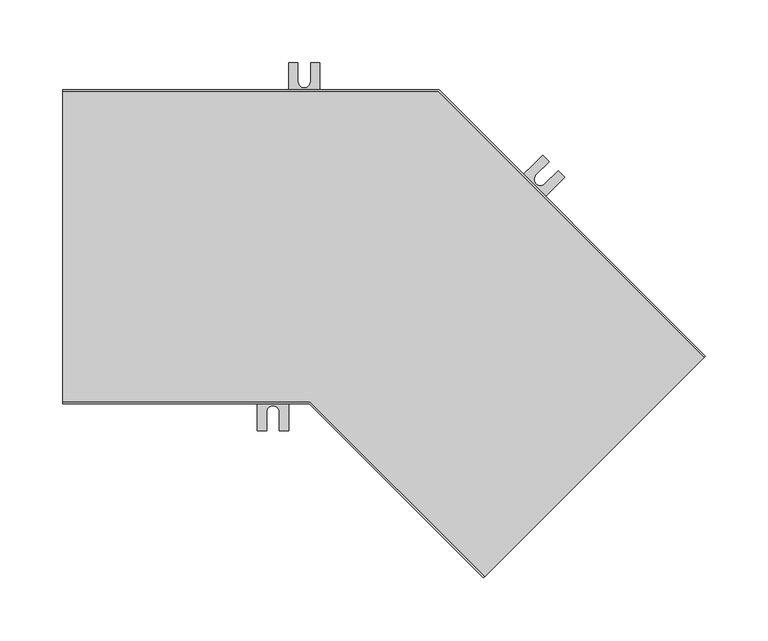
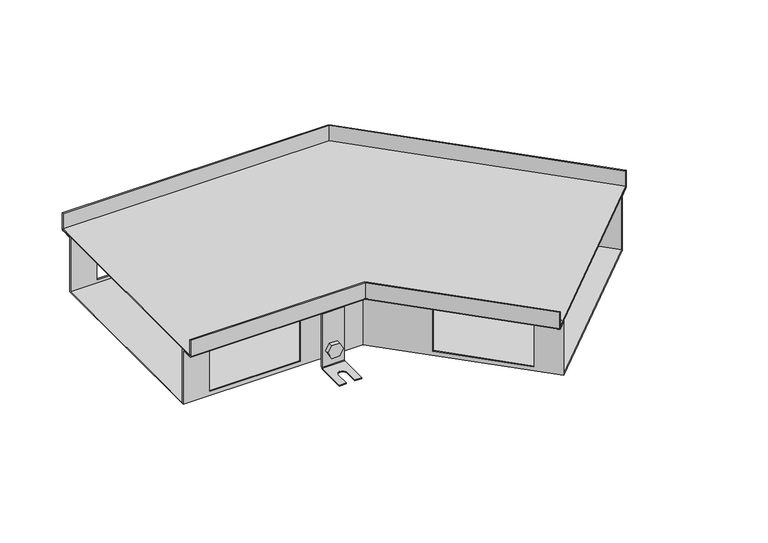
"""IFC4 building model written with IfcOpenShell, lengths in millimetres: proxy geometry, TECHNO_Угловой элемент_KVU : 250_085_135°."""

from ifc_helpers import new_model, si_unit, point, frame, frame_2d, origin, place, context, project, spatial, polyline, circle_curve, ellipse_curve, trimmed, segment, composite_curve, outline, extrude, source, transform, mapped, element, save
from ifc_brep_helpers import plane_surface, cylinder_surface, revolved_surface, advanced_brep


def mechanical_equipment_96d6deb1(model_context):
    return source(origin(), model_context, "Body", "SolidModel", [
        extrude(outline(composite_curve([segment(trimmed(circle_curve(frame_2d((0.0, -7.5000001)), 7.5), [point((0.0, -15.0))], [point((0.0, 0.0))], False, "CARTESIAN"), True, "CONTINUOUS"), segment(trimmed(circle_curve(frame_2d((0.0, -7.5000001)), 7.5), [point((0.0, 0.0))], [point((0.0, -15.0))], False, "CARTESIAN"), True, "CONTINUOUS")], self_intersect=False)), frame((347.6589971, -25.3309017, -75.5), z_axis=(0.7071067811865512, 0.7071067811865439, 0.0), x_axis=(0.0, 0.0, 1.0)), (0.0, 0.0, 1.0), 1.5),
        extrude(outline(polyline([(0.0, 0.0), (8.6602541, 0.0), (12.9903811, -7.5), (8.660254, -15.0), (0.0, -15.0), (-4.330127, -7.5), (0.0, 0.0)])), frame((331.7771991, -18.3586492, -75.5), z_axis=(0.7071067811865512, 0.7071067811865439, 0.0), x_axis=(0.3535533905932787, -0.3535533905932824, -0.8660254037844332)), (0.0, 0.0, 1.0), 5.1),
        advanced_brep(
        [(350.3460028, -29.7149637, -30.5), (350.3460028, -29.7149637, -93.5), (349.7803174, -30.2806491, -94.3), (326.4457936, -53.6151729, -94.3), (326.4457936, -53.6151729, -95.5), (349.7803174, -30.2806491, -95.5), (351.194531, -28.8664356, -93.5), (351.194531, -28.8664356, -30.5), (332.6683333, -12.0372942, -30.5), (333.5168614, -11.1887661, -30.5), (333.5168614, -11.1887661, -93.5), (332.1026479, -12.6029796, -95.5), (308.7681241, -35.9375034, -95.5), (308.7681241, -35.9375034, -94.3), (332.1026479, -12.6029796, -94.3), (332.6683333, -12.0372942, -93.5), (314.0714249, -41.2408043, -94.3), (324.6780267, -30.6342025, -94.3), (331.7490945, -37.7052704, -94.3), (321.1424928, -48.3118721, -94.3), (321.1424928, -48.3118721, -95.5), (314.0714249, -41.2408043, -95.5), (331.7490945, -37.7052704, -95.5), (324.6780267, -30.6342025, -95.5)],
        [
            (0, 1),
            (1, 2, circle_curve(frame((349.7803174, -30.2806491, -93.5), z_axis=(-0.7071067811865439, 0.7071067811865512, 0.0), x_axis=(-0.7071067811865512, -0.7071067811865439, 0.0)), 0.8)),
            (2, 3),
            (3, 4),
            (4, 5),
            (5, 6, circle_curve(frame((349.7803174, -30.2806491, -93.5), z_axis=(0.7071067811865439, -0.7071067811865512, 0.0), x_axis=(-0.7071067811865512, -0.7071067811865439, 0.0)), 2.0)),
            (6, 7),
            (7, 0),
            (8, 9),
            (9, 10),
            (10, 11, circle_curve(frame((332.1026479, -12.6029796, -93.5), z_axis=(-0.7071067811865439, 0.7071067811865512, 0.0), x_axis=(-0.7071067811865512, -0.7071067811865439, 0.0)), 2.0)),
            (11, 12),
            (12, 13),
            (13, 14),
            (14, 15, circle_curve(frame((332.1026479, -12.6029796, -93.5), z_axis=(0.7071067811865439, -0.7071067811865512, 0.0), x_axis=(-0.7071067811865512, -0.7071067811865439, 0.0)), 0.8)),
            (15, 8),
            (0, 8),
            (15, 1),
            (14, 2),
            (13, 16),
            (16, 17),
            (17, 18, circle_curve(frame((328.2135606, -34.1697364, -94.3), z_axis=(0.0, 0.0, -1.0), x_axis=(0.7071067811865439, -0.7071067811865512, 0.0)), 5.0)),
            (18, 19),
            (19, 3),
            (19, 20),
            (20, 4),
            (12, 21),
            (21, 16),
            (20, 22),
            (22, 23, circle_curve(frame((328.2135606, -34.1697364, -95.5), z_axis=(0.0, 0.0, 1.0), x_axis=(0.7071067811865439, -0.7071067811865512, 0.0)), 5.0)),
            (23, 21),
            (11, 5),
            (10, 6),
            (9, 7),
            (23, 17),
            (18, 22),
        ],
        [
            plane_surface(frame((350.3460028, -29.7149637, -30.5), z_axis=(0.7071067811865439, -0.7071067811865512, 0.0), x_axis=(0.0, 0.0, -1.0))),
            plane_surface(frame((332.6683333, -12.0372942, -30.5), z_axis=(-0.7071067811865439, 0.7071067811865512, 0.0), x_axis=(0.0, 0.0, 1.0))),
            plane_surface(frame((350.3460028, -29.7149637, -30.5), z_axis=(-0.7071067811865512, -0.7071067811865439, 0.0), x_axis=(-0.7071067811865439, 0.7071067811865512, 0.0))),
            revolved_surface(polyline([(331.53696247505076, -13.168665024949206, -93.5), (349.2146319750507, -30.84633452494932, -93.5)]), (332.1026479, -12.6029796, -93.5), (-0.7071067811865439, 0.7071067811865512, 0.0)),
            plane_surface(frame((349.7803174, -30.2806491, -94.3), z_axis=(0.0, 0.0, 1.0), x_axis=(-0.7071067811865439, 0.7071067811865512, 0.0))),
            plane_surface(frame((326.4457936, -53.6151729, -94.3), z_axis=(-0.7071067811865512, -0.7071067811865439, 0.0), x_axis=(-0.7071067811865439, 0.7071067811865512, 0.0))),
            plane_surface(frame((326.4457936, -53.6151729, -95.5), z_axis=(0.0, 0.0, -1.0), x_axis=(-0.7071067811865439, 0.7071067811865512, 0.0))),
            cylinder_surface(frame((332.1026479, -12.6029796, -93.5), z_axis=(0.7071067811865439, -0.7071067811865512, 0.0), x_axis=(-0.7071067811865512, -0.7071067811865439, 0.0)), 2.0),
            plane_surface(frame((351.194531, -28.8664356, -93.5), z_axis=(0.7071067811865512, 0.7071067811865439, 0.0), x_axis=(-0.7071067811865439, 0.7071067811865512, 0.0))),
            plane_surface(frame((351.194531, -28.8664356, -30.5), z_axis=(0.0, 0.0, 1.0), x_axis=(-0.7071067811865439, 0.7071067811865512, 0.0))),
            plane_surface(frame((324.6780267, -30.6342025, -94.3), z_axis=(0.7071067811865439, -0.7071067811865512, 0.0), x_axis=(0.0, 0.0, -1.0))),
            plane_surface(frame((321.1424928, -48.3118721, -94.3), z_axis=(-0.707106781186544, 0.7071067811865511, 0.0), x_axis=(0.0, 0.0, -1.0))),
            revolved_surface(polyline([(331.7490945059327, -37.70527030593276, -94.3), (331.7490945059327, -37.70527030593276, -95.5)]), (328.2135606, -34.1697364, -95.5), (0.0, 0.0, 1.0)),
        ],
        [
            (0, [[1, 2, 3, 4, 5, 6, 7, 8]]),
            (1, [[9, 10, 11, 12, 13, 14, 15, 16]]),
            (2, [[-1, 17, -16, 18]]),
            (3, [[-2, -18, -15, 19]]),
            (4, [[-3, -19, -14, 20, 21, 22, 23, 24]]),
            (5, [[-4, -24, 25, 26]]),
            (5, [[-13, 27, 28, -20]]),
            (6, [[-5, -26, 29, 30, 31, -27, -12, 32]]),
            (7, [[-6, -32, -11, 33]]),
            (8, [[-7, -33, -10, 34]]),
            (9, [[-8, -34, -9, -17]]),
            (10, [[35, -21, -28, -31]]),
            (11, [[36, -29, -25, -23]]),
            (12, [[-35, -30, -36, -22]]),
        ],
    ),
        extrude(outline(composite_curve([segment(trimmed(circle_curve(frame_2d((0.0, -7.4999999)), 7.5), [point((0.0, -15.0))], [point((0.0, 0.0))], False, "CARTESIAN"), True, "CONTINUOUS"), segment(trimmed(circle_curve(frame_2d((0.0, -7.4999999)), 7.5), [point((0.0, 0.0))], [point((0.0, -15.0))], False, "CARTESIAN"), True, "CONTINUOUS")], self_intersect=False)), frame((360.2454978, 43.8241415, -75.5), z_axis=(0.7071067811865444, 0.7071067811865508, 0.0), x_axis=(0.0, 0.0, -1.0)), (0.0, 0.0, 1.0), 1.5),
        extrude(outline(polyline([(0.0, 0.0), (4.330127, -7.5), (0.0, -15.0), (-8.660254, -15.0), (-12.9903811, -7.5), (-8.6602541, 0.0), (0.0, 0.0)])), frame((373.5817113, 34.3063046, -75.5), z_axis=(0.7071067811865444, 0.7071067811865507, 0.0), x_axis=(0.35355339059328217, -0.35355339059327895, 0.8660254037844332)), (0.0, 0.0, 1.0), 5.1),
        advanced_brep(
        [(358.6191522, 49.2688637, -30.5), (358.6191522, 49.2688637, -93.5), (359.1848376, 49.8345492, -94.3), (382.5193614, 73.1690729, -94.3), (382.5193614, 73.1690729, -95.5), (359.1848376, 49.8345492, -95.5), (357.770624, 48.4203356, -93.5), (357.770624, 48.4203356, -30.5), (376.2968217, 31.5911942, -30.5), (375.4482936, 30.7426661, -30.5), (375.4482936, 30.7426661, -93.5), (376.8625071, 32.1568796, -95.5), (400.1970309, 55.4914034, -95.5), (400.1970309, 55.4914034, -94.3), (376.8625071, 32.1568796, -94.3), (376.2968217, 31.5911942, -93.5), (394.89373, 60.7947043, -94.3), (384.2871283, 50.1881026, -94.3), (377.2160605, 57.2591704, -94.3), (387.8226622, 67.8657721, -94.3), (387.8226622, 67.8657721, -95.5), (394.89373, 60.7947043, -95.5), (377.2160605, 57.2591704, -95.5), (384.2871283, 50.1881026, -95.5)],
        [
            (0, 1),
            (1, 2, circle_curve(frame((359.1848376, 49.8345492, -93.5), z_axis=(0.7071067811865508, -0.7071067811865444, 0.0), x_axis=(0.7071067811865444, 0.7071067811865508, 0.0)), 0.8)),
            (2, 3),
            (3, 4),
            (4, 5),
            (5, 6, circle_curve(frame((359.1848376, 49.8345492, -93.5), z_axis=(-0.7071067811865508, 0.7071067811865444, 0.0), x_axis=(0.7071067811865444, 0.7071067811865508, 0.0)), 2.0)),
            (6, 7),
            (7, 0),
            (8, 9),
            (9, 10),
            (10, 11, circle_curve(frame((376.8625071, 32.1568796, -93.5), z_axis=(0.7071067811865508, -0.7071067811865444, 0.0), x_axis=(0.7071067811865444, 0.7071067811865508, 0.0)), 2.0)),
            (11, 12),
            (12, 13),
            (13, 14),
            (14, 15, circle_curve(frame((376.8625071, 32.1568796, -93.5), z_axis=(-0.7071067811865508, 0.7071067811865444, 0.0), x_axis=(0.7071067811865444, 0.7071067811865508, 0.0)), 0.8)),
            (15, 8),
            (0, 8),
            (15, 1),
            (14, 2),
            (13, 16),
            (16, 17),
            (17, 18, circle_curve(frame((380.7515944, 53.7236365, -94.3), z_axis=(0.0, 0.0, -1.0), x_axis=(-0.7071067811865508, 0.7071067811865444, 0.0)), 5.0)),
            (18, 19),
            (19, 3),
            (19, 20),
            (20, 4),
            (12, 21),
            (21, 16),
            (20, 22),
            (22, 23, circle_curve(frame((380.7515944, 53.7236365, -95.5), z_axis=(0.0, 0.0, 1.0), x_axis=(-0.7071067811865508, 0.7071067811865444, 0.0)), 5.0)),
            (23, 21),
            (11, 5),
            (10, 6),
            (9, 7),
            (23, 17),
            (18, 22),
        ],
        [
            plane_surface(frame((358.6191522, 49.2688637, -30.5), z_axis=(-0.7071067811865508, 0.7071067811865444, 0.0), x_axis=(0.0, 0.0, -1.0))),
            plane_surface(frame((376.2968217, 31.5911942, -30.5), z_axis=(0.7071067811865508, -0.7071067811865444, 0.0), x_axis=(0.0, 0.0, 1.0))),
            plane_surface(frame((358.6191522, 49.2688637, -30.5), z_axis=(0.7071067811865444, 0.7071067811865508, 0.0), x_axis=(0.7071067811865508, -0.7071067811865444, 0.0))),
            revolved_surface(polyline([(377.4281925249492, 32.72256502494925, -93.5), (359.75052297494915, 50.40023457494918, -93.5)]), (376.8625071, 32.1568796, -93.5), (0.7071067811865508, -0.7071067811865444, 0.0)),
            plane_surface(frame((359.1848376, 49.8345492, -94.3), z_axis=(0.0, 0.0, 1.0000000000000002), x_axis=(0.7071067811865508, -0.7071067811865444, 0.0))),
            plane_surface(frame((382.5193614, 73.1690729, -94.3), z_axis=(0.7071067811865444, 0.7071067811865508, 0.0), x_axis=(0.7071067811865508, -0.7071067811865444, 0.0))),
            plane_surface(frame((382.5193614, 73.1690729, -95.5), z_axis=(0.0, 0.0, -1.0000000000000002), x_axis=(0.7071067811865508, -0.7071067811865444, 0.0))),
            cylinder_surface(frame((376.8625071, 32.1568796, -93.5), z_axis=(-0.7071067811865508, 0.7071067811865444, 0.0), x_axis=(0.7071067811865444, 0.7071067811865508, 0.0)), 2.0),
            plane_surface(frame((357.770624, 48.4203356, -93.5), z_axis=(-0.7071067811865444, -0.7071067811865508, 0.0), x_axis=(0.7071067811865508, -0.7071067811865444, 0.0))),
            plane_surface(frame((357.770624, 48.4203356, -30.5), z_axis=(0.0, 0.0, 1.0000000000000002), x_axis=(0.7071067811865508, -0.7071067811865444, 0.0))),
            plane_surface(frame((384.2871283, 50.1881026, -94.3), z_axis=(-0.7071067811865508, 0.7071067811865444, 0.0), x_axis=(0.0, 0.0, -1.0))),
            plane_surface(frame((387.8226622, 67.8657721, -94.3), z_axis=(0.7071067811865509, -0.7071067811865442, 0.0), x_axis=(0.0, 0.0, -1.0))),
            revolved_surface(polyline([(377.2160604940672, 57.25917040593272, -94.3), (377.2160604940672, 57.25917040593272, -95.5)]), (380.7515944, 53.7236365, -95.5), (0.0, 0.0, 1.0)),
        ],
        [
            (0, [[1, 2, 3, 4, 5, 6, 7, 8]]),
            (1, [[9, 10, 11, 12, 13, 14, 15, 16]]),
            (2, [[-1, 17, -16, 18]]),
            (3, [[-2, -18, -15, 19]]),
            (4, [[-3, -19, -14, 20, 21, 22, 23, 24]]),
            (5, [[-4, -24, 25, 26]]),
            (5, [[-13, 27, 28, -20]]),
            (6, [[-5, -26, 29, 30, 31, -27, -12, 32]]),
            (7, [[-6, -32, -11, 33]]),
            (8, [[-7, -33, -10, 34]]),
            (9, [[-8, -34, -9, -17]]),
            (10, [[35, -21, -28, -31]]),
            (11, [[36, -29, -25, -23]]),
            (12, [[-35, -30, -36, -22]]),
        ],
    ),
        extrude(outline(composite_curve([segment(trimmed(circle_curve(frame_2d((-75.5, 192.5)), 7.5), [point((-75.5, 185.0))], [point((-75.5, 200.0))], False, "CARTESIAN"), True, "CONTINUOUS"), segment(trimmed(circle_curve(frame_2d((-75.5, 192.5)), 7.5), [point((-75.5, 200.0))], [point((-75.5, 185.0))], False, "CARTESIAN"), True, "CONTINUOUS")], self_intersect=False)), frame((0.0, 110.2, 0.0), z_axis=(0.0, 1.0, 0.0), x_axis=(0.0, 0.0, 1.0)), (0.0, 0.0, 1.0), 1.5),
        extrude(outline(polyline([(-75.5, 183.839746), (-83.0, 188.169873), (-83.0, 196.830127), (-75.5, 201.160254), (-68.0, 196.830127), (-68.0, 188.169873), (-75.5, 183.839746)])), frame((0.0, 112.9, 0.0), z_axis=(0.0, 1.0, 0.0), x_axis=(0.0, 0.0, 1.0)), (0.0, 0.0, 1.0), 5.1),
        advanced_brep(
        [(205.0, 112.9, -30.5), (205.0, 111.7, -30.5), (205.0, 111.7, -93.5), (205.0, 113.7, -95.5), (205.0, 146.7, -95.5), (205.0, 146.7, -94.3), (205.0, 113.7, -94.3), (205.0, 112.9, -93.5), (180.0, 112.9, -30.5), (180.0, 112.9, -93.5), (180.0, 113.7, -94.3), (180.0, 146.7, -94.3), (180.0, 146.7, -95.5), (180.0, 113.7, -95.5), (180.0, 111.7, -93.5), (180.0, 111.7, -30.5), (197.5, 146.7, -94.3), (197.5, 131.7, -94.3), (187.5, 131.7, -94.3), (187.5, 146.7, -94.3), (187.5, 146.7, -95.5), (197.5, 146.7, -95.5), (187.5, 131.7, -95.5), (197.5, 131.7, -95.5)],
        [
            (0, 1),
            (1, 2),
            (2, 3, circle_curve(frame((205.0, 113.7, -93.5), z_axis=(1.0, 0.0, 0.0), x_axis=(0.0, 1.0, 0.0)), 2.0)),
            (3, 4),
            (4, 5),
            (5, 6),
            (6, 7, circle_curve(frame((205.0, 113.7, -93.5), z_axis=(-1.0, 0.0, 0.0), x_axis=(0.0, 1.0, 0.0)), 0.8)),
            (7, 0),
            (8, 9),
            (9, 10, circle_curve(frame((180.0, 113.7, -93.5), z_axis=(1.0, 0.0, 0.0), x_axis=(0.0, 1.0, 0.0)), 0.8)),
            (10, 11),
            (11, 12),
            (12, 13),
            (13, 14, circle_curve(frame((180.0, 113.7, -93.5), z_axis=(-1.0, 0.0, 0.0), x_axis=(0.0, 1.0, 0.0)), 2.0)),
            (14, 15),
            (15, 8),
            (7, 9),
            (8, 0),
            (6, 10),
            (5, 16),
            (16, 17),
            (17, 18, circle_curve(frame((192.5, 131.7, -94.3), z_axis=(0.0, 0.0, -1.0), x_axis=(1.0, 0.0, 0.0)), 5.0)),
            (18, 19),
            (19, 11),
            (19, 20),
            (20, 12),
            (4, 21),
            (21, 16),
            (3, 13),
            (20, 22),
            (22, 23, circle_curve(frame((192.5, 131.7, -95.5), z_axis=(0.0, 0.0, 1.0), x_axis=(1.0, 0.0, 0.0)), 5.0)),
            (23, 21),
            (2, 14),
            (1, 15),
            (18, 22),
            (23, 17),
        ],
        [
            plane_surface(frame((205.0, 112.9, -30.5), z_axis=(1.0, 0.0, 0.0), x_axis=(0.0, 0.0, -1.0))),
            plane_surface(frame((180.0, 112.9, -30.5), z_axis=(-1.0, 0.0, 0.0), x_axis=(0.0, 0.0, 1.0))),
            plane_surface(frame((205.0, 112.9, -30.5), z_axis=(0.0, 1.0, 0.0), x_axis=(-1.0, 0.0, 0.0))),
            revolved_surface(polyline([(180.0, 114.5, -93.5), (205.0, 114.5, -93.5)]), (180.0, 113.7, -93.5), (-1.0, 0.0, 0.0)),
            plane_surface(frame((205.0, 113.7, -94.3), z_axis=(0.0, 0.0, 1.0), x_axis=(-1.0, 0.0, 0.0))),
            plane_surface(frame((205.0, 146.7, -94.3), z_axis=(0.0, 1.0, 0.0), x_axis=(-1.0, 0.0, 0.0))),
            plane_surface(frame((205.0, 146.7, -95.5), z_axis=(0.0, 0.0, -1.0), x_axis=(-1.0, 0.0, 0.0))),
            cylinder_surface(frame((180.0, 113.7, -93.5), z_axis=(1.0, 0.0, 0.0), x_axis=(0.0, 1.0, 0.0)), 2.0),
            plane_surface(frame((205.0, 111.7, -93.5), z_axis=(0.0, -1.0, 0.0), x_axis=(-1.0, 0.0, 0.0))),
            plane_surface(frame((205.0, 111.7, -30.5), z_axis=(0.0, 0.0, 1.0), x_axis=(-1.0, 0.0, 0.0))),
            plane_surface(frame((187.5, 131.7, -94.3), z_axis=(1.0, 0.0, 0.0), x_axis=(0.0, 0.0, -1.0))),
            plane_surface(frame((197.5, 146.7, -94.3), z_axis=(-1.0, 0.0, 0.0), x_axis=(0.0, 0.0, -1.0))),
            revolved_surface(polyline([(197.5, 131.7, -94.3), (197.5, 131.7, -95.5)]), (192.5, 131.7, -95.5), (0.0, 0.0, 1.0)),
        ],
        [
            (0, [[1, 2, 3, 4, 5, 6, 7, 8]]),
            (1, [[9, 10, 11, 12, 13, 14, 15, 16]]),
            (2, [[17, -9, 18, -8]]),
            (3, [[19, -10, -17, -7]]),
            (4, [[20, 21, 22, 23, 24, -11, -19, -6]]),
            (5, [[-24, 25, 26, -12]]),
            (5, [[27, 28, -20, -5]]),
            (6, [[29, -13, -26, 30, 31, 32, -27, -4]]),
            (7, [[33, -14, -29, -3]]),
            (8, [[34, -15, -33, -2]]),
            (9, [[-18, -16, -34, -1]]),
            (10, [[-30, -25, -23, 35]]),
            (11, [[-21, -28, -32, 36]]),
            (12, [[-22, -36, -31, -35]]),
        ],
    ),
        extrude(outline(composite_curve([segment(trimmed(circle_curve(frame_2d((-75.5, 167.5)), 7.5), [point((-75.5, 160.0))], [point((-75.5, 175.0))], False, "CARTESIAN"), True, "CONTINUOUS"), segment(trimmed(circle_curve(frame_2d((-75.5, 167.5)), 7.5), [point((-75.5, 175.0))], [point((-75.5, 160.0))], False, "CARTESIAN"), True, "CONTINUOUS")], self_intersect=False)), frame((0.0, -111.7, 0.0), z_axis=(0.0, 1.0, 0.0), x_axis=(0.0, 0.0, 1.0)), (0.0, 0.0, 1.0), 1.5),
        extrude(outline(polyline([(-75.5, 158.839746), (-83.0, 163.169873), (-83.0, 171.830127), (-75.5, 176.160254), (-68.0, 171.830127), (-68.0, 163.169873), (-75.5, 158.839746)])), frame((0.0, -118.0, 0.0), z_axis=(0.0, 1.0, 0.0), x_axis=(0.0, 0.0, 1.0)), (0.0, 0.0, 1.0), 5.1),
        advanced_brep(
        [(180.0, -112.9, -30.5), (180.0, -112.9, -93.5), (180.0, -113.7, -94.3), (180.0, -146.7, -94.3), (180.0, -146.7, -95.5), (180.0, -113.7, -95.5), (180.0, -111.7, -93.5), (180.0, -111.7, -30.5), (155.0, -112.9, -30.5), (155.0, -111.7, -30.5), (155.0, -111.7, -93.5), (155.0, -113.7, -95.5), (155.0, -146.7, -95.5), (155.0, -146.7, -94.3), (155.0, -113.7, -94.3), (155.0, -112.9, -93.5), (162.5, -146.7, -94.3), (162.5, -131.7, -94.3), (172.5, -131.7, -94.3), (172.5, -146.7, -94.3), (172.5, -146.7, -95.5), (162.5, -146.7, -95.5), (172.5, -131.7, -95.5), (162.5, -131.7, -95.5)],
        [
            (0, 1),
            (1, 2, circle_curve(frame((180.0, -113.7, -93.5), z_axis=(-1.0, 0.0, 0.0), x_axis=(0.0, -1.0, 0.0)), 0.8)),
            (2, 3),
            (3, 4),
            (4, 5),
            (5, 6, circle_curve(frame((180.0, -113.7, -93.5), z_axis=(1.0, 0.0, 0.0), x_axis=(0.0, -1.0, 0.0)), 2.0)),
            (6, 7),
            (7, 0),
            (8, 9),
            (9, 10),
            (10, 11, circle_curve(frame((155.0, -113.7, -93.5), z_axis=(-1.0, 0.0, 0.0), x_axis=(0.0, -1.0, 0.0)), 2.0)),
            (11, 12),
            (12, 13),
            (13, 14),
            (14, 15, circle_curve(frame((155.0, -113.7, -93.5), z_axis=(1.0, 0.0, 0.0), x_axis=(0.0, -1.0, 0.0)), 0.8)),
            (15, 8),
            (0, 8),
            (15, 1),
            (14, 2),
            (13, 16),
            (16, 17),
            (17, 18, circle_curve(frame((167.5, -131.7, -94.3), z_axis=(0.0, 0.0, -1.0), x_axis=(1.0, 0.0, 0.0)), 5.0)),
            (18, 19),
            (19, 3),
            (19, 20),
            (20, 4),
            (12, 21),
            (21, 16),
            (20, 22),
            (22, 23, circle_curve(frame((167.5, -131.7, -95.5), z_axis=(0.0, 0.0, 1.0), x_axis=(1.0, 0.0, 0.0)), 5.0)),
            (23, 21),
            (11, 5),
            (10, 6),
            (9, 7),
            (23, 17),
            (18, 22),
        ],
        [
            plane_surface(frame((180.0, -112.9, -30.5), z_axis=(1.0, 0.0, 0.0), x_axis=(0.0, 0.0, -1.0))),
            plane_surface(frame((155.0, -112.9, -30.5), z_axis=(-1.0, 0.0, 0.0), x_axis=(0.0, 0.0, 1.0))),
            plane_surface(frame((180.0, -112.9, -30.5), z_axis=(0.0, -1.0, 0.0), x_axis=(-1.0, 0.0, 0.0))),
            revolved_surface(polyline([(155.0, -114.5, -93.5), (180.0, -114.5, -93.5)]), (155.0, -113.7, -93.5), (-1.0, 0.0, 0.0)),
            plane_surface(frame((180.0, -113.7, -94.3), z_axis=(0.0, 0.0, 1.0), x_axis=(-1.0, 0.0, 0.0))),
            plane_surface(frame((180.0, -146.7, -94.3), z_axis=(0.0, -1.0, 0.0), x_axis=(-1.0, 0.0, 0.0))),
            plane_surface(frame((180.0, -146.7, -95.5), z_axis=(0.0, 0.0, -1.0), x_axis=(-1.0, 0.0, 0.0))),
            cylinder_surface(frame((155.0, -113.7, -93.5), z_axis=(1.0, 0.0, 0.0), x_axis=(0.0, -1.0, 0.0)), 2.0),
            plane_surface(frame((180.0, -111.7, -93.5), z_axis=(0.0, 1.0, 0.0), x_axis=(-1.0, 0.0, 0.0))),
            plane_surface(frame((180.0, -111.7, -30.5), z_axis=(0.0, 0.0, 1.0), x_axis=(-1.0, 0.0, 0.0))),
            plane_surface(frame((162.5, -131.7, -94.3), z_axis=(1.0, 0.0, 0.0), x_axis=(0.0, 0.0, -1.0))),
            plane_surface(frame((172.5, -146.7, -94.3), z_axis=(-1.0, 0.0, 0.0), x_axis=(0.0, 0.0, -1.0))),
            revolved_surface(polyline([(172.5, -131.7, -94.3), (172.5, -131.7, -95.5)]), (167.5, -131.7, -95.5), (0.0, 0.0, 1.0)),
        ],
        [
            (0, [[1, 2, 3, 4, 5, 6, 7, 8]]),
            (1, [[9, 10, 11, 12, 13, 14, 15, 16]]),
            (2, [[-1, 17, -16, 18]]),
            (3, [[-2, -18, -15, 19]]),
            (4, [[-3, -19, -14, 20, 21, 22, 23, 24]]),
            (5, [[-4, -24, 25, 26]]),
            (5, [[-13, 27, 28, -20]]),
            (6, [[-5, -26, 29, 30, 31, -27, -12, 32]]),
            (7, [[-6, -32, -11, 33]]),
            (8, [[-7, -33, -10, 34]]),
            (9, [[-8, -34, -9, -17]]),
            (10, [[35, -21, -28, -31]]),
            (11, [[36, -29, -25, -23]]),
            (12, [[-35, -30, -36, -22]]),
        ],
    ),
        extrude(outline(polyline([(511.2835062, -87.9805625), (336.2038672, -263.0602015), (196.9436657, -123.8), (0.0, -123.8), (0.0, 123.8), (299.5029437, 123.8), (511.2835062, -87.9805625)])), frame((0.0, 0.0, -19.3), z_axis=(0.0, 0.0, 1.0), x_axis=(1.0, 0.0, 0.0)), (0.0, 0.0, 1.0), 1.2),
        advanced_brep(
        [(335.3553391, -263.9087297, -19.3), (336.2038672, -263.0602015, -20.5), (345.8205194, -253.4435493, -20.5), (345.8205194, -253.4435493, -85.0), (501.666854, -97.5972147, -85.0), (501.666854, -97.5972147, -20.5), (511.2835062, -87.9805625, -20.5), (512.1320344, -87.1320344, -19.3), (512.1320344, -87.1320344, 0.0), (511.2835062, -87.9805625, 0.0), (511.2835062, -87.9805625, -19.3), (501.666854, -97.5972147, -19.3), (500.8183259, -98.4457429, -20.5), (500.8183259, -98.4457429, -83.8), (346.6690476, -252.5950212, -83.8), (346.6690476, -252.5950212, -20.5), (345.8205194, -253.4435493, -19.3), (336.2038672, -263.0602015, -19.3), (336.2038672, -263.0602015, 0.0), (335.3553391, -263.9087297, 0.0), (0.0, -125.0, -19.3), (0.0, -125.0, 0.0), (0.0, -123.8, 0.0), (0.0, -123.8, -19.3), (0.0, -110.2, -19.3), (0.0, -109.0, -20.5), (0.0, -109.0, -83.8), (0.0, 109.0, -83.8), (0.0, 109.0, -20.5), (0.0, 110.2, -19.3), (0.0, 123.8, -19.3), (0.0, 123.8, 0.0), (0.0, 125.0, 0.0), (0.0, 125.0, -19.3), (0.0, 123.8, -20.5), (0.0, 110.2, -20.5), (0.0, 110.2, -85.0), (0.0, -110.2, -85.0), (0.0, -110.2, -20.5), (0.0, -123.8, -20.5), (196.9436657, -123.8, -20.5), (196.4466094, -125.0, -19.3), (196.9436657, -123.8, 0.0), (196.9436657, -123.8, -19.3), (202.5769701, -110.2, -85.0), (202.5769701, -110.2, -20.5), (30.0, -110.2, -30.5), (132.0, -110.2, -30.5), (132.0, -110.2, -80.0), (30.0, -110.2, -80.0), (203.0740264, -109.0, -20.5), (203.0740264, -109.0, -83.8), (132.0, -109.0, -30.5), (30.0, -109.0, -30.5), (30.0, -109.0, -80.0), (132.0, -109.0, -80.0), (202.5769701, -110.2, -19.3), (252.4824243, -160.1054542, -30.5), (324.607316, -232.2303459, -30.5), (324.607316, -232.2303459, -80.0), (252.4824243, -160.1054542, -80.0), (293.8696393, 110.2, -85.0), (293.372583, 109.0, -83.8), (325.4558441, -231.3818177, -30.5), (253.3309524, -159.256926, -30.5), (253.3309524, -159.256926, -80.0), (325.4558441, -231.3818177, -80.0), (196.4466094, -125.0, 0.0), (293.8696393, 110.2, -20.5), (480.4536506, -76.3840113, -30.5), (408.3287589, -4.2591196, -30.5), (408.3287589, -4.2591196, -80.0), (480.4536506, -76.3840113, -80.0), (299.5029437, 123.8, -20.5), (300.0, 125.0, -19.3), (300.0, 125.0, 0.0), (299.5029437, 123.8, 0.0), (299.5029437, 123.8, -19.3), (293.8696393, 110.2, -19.3), (293.372583, 109.0, -20.5), (407.4802307, -5.1076477, -30.5), (479.6051224, -77.2325394, -30.5), (479.6051224, -77.2325394, -80.0), (407.4802307, -5.1076477, -80.0), (132.0, 110.2, -30.5), (30.0, 110.2, -30.5), (30.0, 110.2, -80.0), (132.0, 110.2, -80.0), (30.0, 109.0, -30.5), (132.0, 109.0, -30.5), (132.0, 109.0, -80.0), (30.0, 109.0, -80.0)],
        [
            (0, 1, circle_curve(frame((336.2038672, -263.0602015, -19.3), z_axis=(0.707106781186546, -0.707106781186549, 0.0), x_axis=(-0.707106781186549, -0.707106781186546, 0.0)), 1.2)),
            (1, 2),
            (2, 3),
            (3, 4),
            (4, 5),
            (5, 6),
            (6, 7, circle_curve(frame((511.2835062, -87.9805625, -19.3), z_axis=(0.707106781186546, -0.707106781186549, 0.0), x_axis=(-0.707106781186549, -0.707106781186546, 0.0)), 1.2)),
            (7, 8),
            (8, 9),
            (9, 10),
            (10, 11),
            (11, 12, circle_curve(frame((501.666854, -97.5972147, -20.5), z_axis=(0.707106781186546, -0.707106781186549, 0.0), x_axis=(-0.707106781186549, -0.707106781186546, 0.0)), 1.2)),
            (12, 13),
            (13, 14),
            (14, 15),
            (15, 16, circle_curve(frame((345.8205194, -253.4435493, -20.5), z_axis=(0.707106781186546, -0.707106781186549, 0.0), x_axis=(-0.707106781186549, -0.707106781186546, 0.0)), 1.2)),
            (16, 17),
            (17, 18),
            (18, 19),
            (19, 0),
            (20, 21),
            (21, 22),
            (22, 23),
            (23, 24),
            (24, 25, circle_curve(frame((0.0, -110.2, -20.5), z_axis=(-1.0, 0.0, 0.0), x_axis=(0.0, -1.0, 0.0)), 1.2)),
            (25, 26),
            (26, 27),
            (27, 28),
            (28, 29, circle_curve(frame((0.0, 110.2, -20.5), z_axis=(-1.0, 0.0, 0.0), x_axis=(0.0, -1.0, 0.0)), 1.2)),
            (29, 30),
            (30, 31),
            (31, 32),
            (32, 33),
            (33, 34, circle_curve(frame((0.0, 123.8, -19.3), z_axis=(-1.0, 0.0, 0.0), x_axis=(0.0, -1.0, 0.0)), 1.2)),
            (34, 35),
            (35, 36),
            (36, 37),
            (37, 38),
            (38, 39),
            (39, 20, circle_curve(frame((0.0, -123.8, -19.3), z_axis=(-1.0, 0.0, 0.0), x_axis=(0.0, -1.0, 0.0)), 1.2)),
            (39, 40),
            (40, 41, ellipse_curve(frame((196.9436657, -123.8, -19.3), z_axis=(-0.9238795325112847, 0.3826834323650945, 0.0), x_axis=(0.3826834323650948, 0.9238795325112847, 0.0)), 1.2988706, 1.2)),
            (41, 20),
            (22, 42),
            (42, 43),
            (43, 23),
            (37, 44),
            (44, 45),
            (45, 38),
            (46, 47),
            (47, 48),
            (48, 49),
            (49, 46),
            (25, 50),
            (50, 51),
            (51, 26),
            (52, 53),
            (53, 54),
            (54, 55),
            (55, 52),
            (24, 56),
            (56, 50, ellipse_curve(frame((202.5769701, -110.2, -20.5), z_axis=(-0.9238795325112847, 0.3826834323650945, 0.0), x_axis=(0.3826834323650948, 0.9238795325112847, 0.0)), 1.2988706, 1.2)),
            (0, 41),
            (40, 1),
            (45, 2),
            (44, 3),
            (57, 58),
            (58, 59),
            (59, 60),
            (60, 57),
            (36, 61),
            (61, 4),
            (13, 62),
            (62, 27),
            (51, 14),
            (50, 15),
            (63, 64),
            (64, 65),
            (65, 66),
            (66, 63),
            (56, 16),
            (43, 17),
            (42, 18),
            (21, 67),
            (67, 19),
            (61, 68),
            (68, 5),
            (69, 70),
            (70, 71),
            (71, 72),
            (72, 69),
            (68, 35),
            (34, 73),
            (73, 6),
            (73, 74, ellipse_curve(frame((299.5029437, 123.8, -19.3), z_axis=(0.9238795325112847, -0.3826834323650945, 0.0), x_axis=(-0.38268343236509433, -0.9238795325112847, 0.0)), 1.2988706, 1.2)),
            (74, 7),
            (74, 75),
            (75, 8),
            (75, 32),
            (31, 76),
            (76, 9),
            (76, 77),
            (77, 10),
            (77, 30),
            (29, 78),
            (78, 11),
            (78, 79, ellipse_curve(frame((293.8696393, 110.2, -20.5), z_axis=(0.9238795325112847, -0.3826834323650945, 0.0), x_axis=(-0.38268343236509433, -0.9238795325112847, 0.0)), 1.2988706, 1.2)),
            (79, 12),
            (79, 62),
            (80, 81),
            (81, 82),
            (82, 83),
            (83, 80),
            (84, 85),
            (85, 86),
            (86, 87),
            (87, 84),
            (33, 74),
            (28, 79),
            (88, 89),
            (89, 90),
            (90, 91),
            (91, 88),
            (41, 67),
            (46, 53),
            (52, 47),
            (88, 85),
            (84, 89),
            (49, 54),
            (91, 86),
            (48, 55),
            (90, 87),
            (57, 64),
            (63, 58),
            (80, 70),
            (69, 81),
            (66, 59),
            (72, 82),
            (65, 60),
            (71, 83),
        ],
        [
            plane_surface(frame((423.7436867, -175.520382, 0.0), z_axis=(0.707106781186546, -0.707106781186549, 0.0), x_axis=(0.0, 0.0, 1.0))),
            plane_surface(frame((0.0, 0.0, 0.0), z_axis=(-1.0, 0.0, 0.0), x_axis=(0.0, 0.0, 1.0))),
            cylinder_surface(frame((248.2233047, -123.8, -19.3), z_axis=(1.0, 0.0, 0.0), x_axis=(0.0, -1.0, 0.0)), 1.2),
            plane_surface(frame((196.9436657, -123.8, -19.3), z_axis=(0.0, 1.0, 0.0), x_axis=(-1.0, 0.0, 0.0))),
            plane_surface(frame((202.5769701, -110.2, -20.5), z_axis=(0.0, -1.0, 0.0), x_axis=(-1.0, 0.0, 0.0))),
            plane_surface(frame((203.0740264, -109.0, -83.8), z_axis=(0.0, 1.0, 0.0), x_axis=(-1.0, 0.0, 0.0))),
            cylinder_surface(frame((248.2233047, -110.2, -20.5), z_axis=(1.0, 0.0, 0.0), x_axis=(0.0, -1.0, 0.0)), 1.2),
            cylinder_surface(frame((336.2038672, -263.0602015, -19.3), z_axis=(0.707106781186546, -0.707106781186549, 0.0), x_axis=(-0.707106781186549, -0.707106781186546, 0.0)), 1.2),
            plane_surface(frame((336.2038672, -263.0602015, -20.5), z_axis=(0.0, 0.0, -1.0), x_axis=(-0.707106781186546, 0.7071067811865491, 0.0))),
            plane_surface(frame((345.8205194, -253.4435493, -20.5), z_axis=(-0.7071067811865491, -0.7071067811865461, 0.0), x_axis=(-0.7071067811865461, 0.7071067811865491, 0.0))),
            plane_surface(frame((345.8205194, -253.4435493, -85.0), z_axis=(0.0, 0.0, -1.0), x_axis=(-0.7071067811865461, 0.7071067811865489, 0.0))),
            plane_surface(frame((500.8183259, -98.4457429, -83.8), z_axis=(0.0, 0.0, 1.0), x_axis=(-0.707106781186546, 0.7071067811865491, 0.0))),
            plane_surface(frame((346.6690476, -252.5950212, -83.8), z_axis=(0.707106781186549, 0.7071067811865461, 0.0), x_axis=(-0.7071067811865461, 0.707106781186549, 0.0))),
            cylinder_surface(frame((345.8205194, -253.4435493, -20.5), z_axis=(0.707106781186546, -0.707106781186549, 0.0), x_axis=(-0.707106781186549, -0.707106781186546, 0.0)), 1.2),
            plane_surface(frame((345.8205194, -253.4435493, -19.3), z_axis=(0.0, 0.0, 1.0000000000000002), x_axis=(-0.7071067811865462, 0.7071067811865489, 0.0))),
            plane_surface(frame((336.2038672, -263.0602015, -19.3), z_axis=(0.707106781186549, 0.7071067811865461, 0.0), x_axis=(-0.7071067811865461, 0.707106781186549, 0.0))),
            plane_surface(frame((336.2038672, -263.0602015, 0.0), z_axis=(0.0, 0.0, 1.0), x_axis=(-0.7071067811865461, 0.707106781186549, 0.0))),
            plane_surface(frame((501.666854, -97.5972147, -85.0), z_axis=(0.7071067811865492, 0.7071067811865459, 0.0), x_axis=(-0.7071067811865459, 0.7071067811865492, 0.0))),
            plane_surface(frame((501.666854, -97.5972147, -20.5), z_axis=(0.0, 0.0, -1.0000000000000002), x_axis=(-0.7071067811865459, 0.7071067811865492, 0.0))),
            cylinder_surface(frame((511.2835062, -87.9805625, -19.3), z_axis=(0.707106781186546, -0.707106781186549, 0.0), x_axis=(-0.707106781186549, -0.707106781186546, 0.0)), 1.2),
            plane_surface(frame((512.1320344, -87.1320344, -19.3), z_axis=(0.707106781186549, 0.707106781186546, 0.0), x_axis=(-0.707106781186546, 0.707106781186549, 0.0))),
            plane_surface(frame((512.1320344, -87.1320344, 0.0), z_axis=(0.0, 0.0, 1.0), x_axis=(-0.707106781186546, 0.707106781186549, 0.0))),
            plane_surface(frame((511.2835062, -87.9805625, 0.0), z_axis=(-0.707106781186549, -0.707106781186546, 0.0), x_axis=(-0.707106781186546, 0.707106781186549, 0.0))),
            plane_surface(frame((511.2835062, -87.9805625, -19.3), z_axis=(0.0, 0.0, 1.0), x_axis=(-0.707106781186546, 0.707106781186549, 0.0))),
            cylinder_surface(frame((501.666854, -97.5972147, -20.5), z_axis=(0.707106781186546, -0.707106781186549, 0.0), x_axis=(-0.707106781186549, -0.707106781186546, 0.0)), 1.2),
            plane_surface(frame((500.8183259, -98.4457429, -20.5), z_axis=(-0.7071067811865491, -0.707106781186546, 0.0), x_axis=(-0.707106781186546, 0.7071067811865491, 0.0))),
            plane_surface(frame((293.8696393, 110.2, -85.0), z_axis=(0.0, 1.0, 0.0), x_axis=(-1.0, 0.0, 0.0))),
            cylinder_surface(frame((248.2233047, 123.8, -19.3), z_axis=(1.0, 0.0, 0.0), x_axis=(0.0, -1.0, 0.0)), 1.2),
            plane_surface(frame((300.0, 125.0, -19.3), z_axis=(0.0, 1.0, 0.0), x_axis=(-1.0, 0.0, 0.0))),
            plane_surface(frame((299.5029437, 123.8, 0.0), z_axis=(0.0, -1.0, 0.0), x_axis=(-1.0, 0.0, 0.0))),
            cylinder_surface(frame((248.2233047, 110.2, -20.5), z_axis=(1.0, 0.0, 0.0), x_axis=(0.0, -1.0, 0.0)), 1.2),
            plane_surface(frame((293.372583, 109.0, -20.5), z_axis=(0.0, -1.0, 0.0), x_axis=(-1.0, 0.0, 0.0))),
            plane_surface(frame((196.4466094, -125.0, 0.0), z_axis=(0.0, -1.0, 0.0), x_axis=(-1.0, 0.0, 0.0))),
            plane_surface(frame((335.3553391, -263.9087297, 0.0), z_axis=(-0.707106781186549, -0.7071067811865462, 0.0), x_axis=(-0.7071067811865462, 0.707106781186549, 0.0))),
            plane_surface(frame((30.0, 125.0, -30.5), z_axis=(0.0, 0.0, -1.0), x_axis=(0.0, -1.0, 0.0))),
            plane_surface(frame((30.0, 125.0, -80.0), z_axis=(1.0, 0.0, 0.0), x_axis=(0.0, -1.0, 0.0))),
            plane_surface(frame((132.0, 125.0, -80.0), z_axis=(0.0, 0.0, 1.0), x_axis=(0.0, -1.0, 0.0))),
            plane_surface(frame((132.0, 125.0, -30.5), z_axis=(-1.0, 0.0, 0.0), x_axis=(0.0, -1.0, 0.0))),
            plane_surface(frame((418.7939392, 6.2060608, -30.5), z_axis=(0.0, 0.0, -1.0000000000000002), x_axis=(-0.7071067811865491, -0.7071067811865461, 0.0))),
            plane_surface(frame((490.9188309, -65.9188309, -30.5), z_axis=(-0.7071067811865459, 0.7071067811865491, 0.0), x_axis=(-0.7071067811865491, -0.7071067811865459, 0.0))),
            plane_surface(frame((490.9188309, -65.9188309, -80.0), z_axis=(0.0, 0.0, 1.0), x_axis=(-0.7071067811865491, -0.7071067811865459, 0.0))),
            plane_surface(frame((418.7939392, 6.2060608, -80.0), z_axis=(0.7071067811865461, -0.7071067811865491, 0.0), x_axis=(-0.7071067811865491, -0.7071067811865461, 0.0))),
        ],
        [
            (0, [[1, 2, 3, 4, 5, 6, 7, 8, 9, 10, 11, 12, 13, 14, 15, 16, 17, 18, 19, 20]]),
            (1, [[21, 22, 23, 24, 25, 26, 27, 28, 29, 30, 31, 32, 33, 34, 35, 36, 37, 38, 39, 40]]),
            (2, [[-40, 41, 42, 43]]),
            (3, [[-23, 44, 45, 46]]),
            (4, [[-38, 47, 48, 49], [50, 51, 52, 53]]),
            (5, [[-26, 54, 55, 56], [57, 58, 59, 60]]),
            (6, [[-25, 61, 62, -54]]),
            (7, [[-1, 63, -42, 64]]),
            (8, [[-2, -64, -41, -39, -49, 65]]),
            (9, [[-3, -65, -48, 66], [67, 68, 69, 70]]),
            (10, [[-4, -66, -47, -37, 71, 72]]),
            (11, [[-14, 73, 74, -27, -56, 75]]),
            (12, [[-15, -75, -55, 76], [77, 78, 79, 80]]),
            (13, [[-16, -76, -62, 81]]),
            (14, [[-17, -81, -61, -24, -46, 82]]),
            (15, [[-18, -82, -45, 83]]),
            (16, [[-19, -83, -44, -22, 84, 85]]),
            (17, [[-5, -72, 86, 87], [88, 89, 90, 91]]),
            (18, [[-6, -87, 92, -35, 93, 94]]),
            (19, [[-7, -94, 95, 96]]),
            (20, [[-8, -96, 97, 98]]),
            (21, [[-9, -98, 99, -32, 100, 101]]),
            (22, [[-10, -101, 102, 103]]),
            (23, [[-11, -103, 104, -30, 105, 106]]),
            (24, [[-12, -106, 107, 108]]),
            (25, [[-13, -108, 109, -73], [110, 111, 112, 113]]),
            (26, [[-36, -92, -86, -71], [114, 115, 116, 117]]),
            (27, [[-34, 118, -95, -93]]),
            (28, [[-33, -99, -97, -118]]),
            (29, [[-31, -104, -102, -100]]),
            (30, [[-29, 119, -107, -105]]),
            (31, [[-28, -74, -109, -119], [120, 121, 122, 123]]),
            (32, [[-21, -43, 124, -84]]),
            (33, [[-20, -85, -124, -63]]),
            (34, [[125, -57, 126, -50]]),
            (34, [[127, -114, 128, -120]]),
            (35, [[-125, -53, 129, -58]]),
            (35, [[-127, -123, 130, -115]]),
            (36, [[-129, -52, 131, -59]]),
            (36, [[-130, -122, 132, -116]]),
            (37, [[-131, -51, -126, -60]]),
            (37, [[-132, -121, -128, -117]]),
            (38, [[133, -77, 134, -67]]),
            (38, [[135, -88, 136, -110]]),
            (39, [[-134, -80, 137, -68]]),
            (39, [[-136, -91, 138, -111]]),
            (40, [[-137, -79, 139, -69]]),
            (40, [[-138, -90, 140, -112]]),
            (41, [[-133, -70, -139, -78]]),
            (41, [[-135, -113, -140, -89]]),
        ],
    ),
    ])


if __name__ == "__main__":
    model = new_model("IFC4")
    model_context = context("Model", 3, world=origin())
    ifc_project = project(units=[si_unit("LENGTHUNIT", "METRE", prefix="MILLI")], contexts=[model_context])
    site = spatial("IfcSite", under=ifc_project)
    building = spatial("IfcBuilding", under=site)
    placement = place(None, origin())
    mechanical_equipment_shape = mechanical_equipment_96d6deb1(model_context)
    element("IfcBuildingElementProxy", 1, Name="TECHNO_Угловой элемент_KVU : 250_085_135°", ObjectType="TECHNO_Угловой элемент_KVU : 250_085_135°", at=placement, inside=building, context=model_context, shape_type="MappedRepresentation", body=[
        mapped(mechanical_equipment_shape, transform((0.0, 0.0, 0.0), x_axis=(1.0, 0.0, 0.0), y_axis=(0.0, 1.0, 0.0), z_axis=(0.0, 0.0, 1.0))),
    ])
    save(model, "model.ifc")
